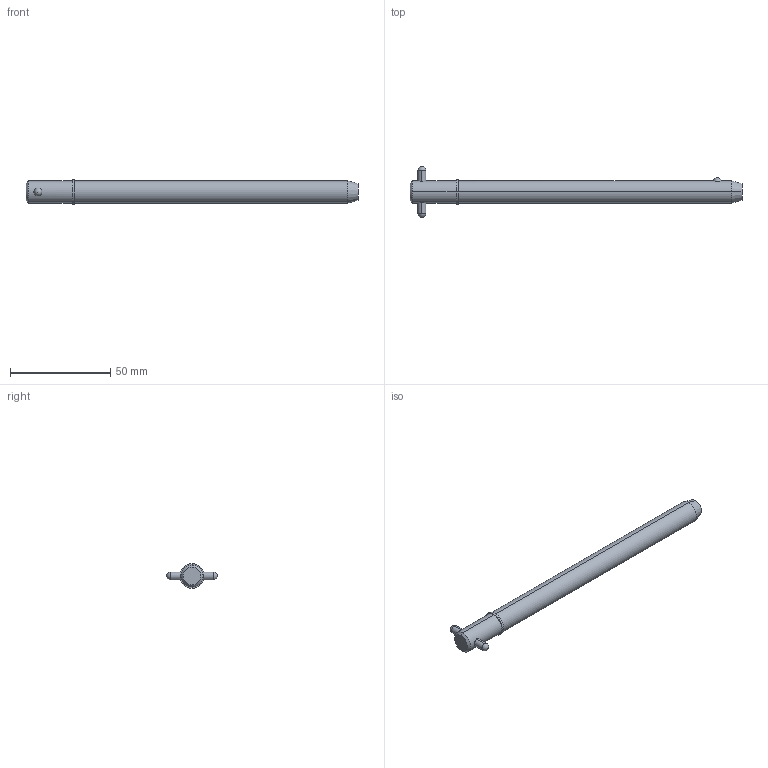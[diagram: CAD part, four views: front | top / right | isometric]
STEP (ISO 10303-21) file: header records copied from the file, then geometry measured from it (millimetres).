
FILE_DESCRIPTION (( 'STEP AP203' ), '1' );
FILE_NAME ('33018.W4350.step', '2024-11-19T17:13:49', ( '' ), ( '' ), 'SwSTEP 2.0', 'SolidWorks 2019', '' );
FILE_SCHEMA (( 'CONFIG_CONTROL_DESIGN' ));
Length unit declared in the file: millimetre
Products named in the file (3): 33018.W4350; Part1_33018.W4350; Part2_33018.W4350
Assembly tree (2 placements, depth 2):
  33018.W4350
    Part1_33018.W4350
    Part2_33018.W4350
Bounding box: 165.4 x 25.4 x 12.22 mm (x, y, z)
Volume: 16095.7 mm3; surface area: 6361.1 mm2
Topology: 2 solids, 2 shells, 22 faces, 47 edges, 30 vertices
Faces by surface type: cylinder 10, sphere 4, cone 4, plane 4
Entity records: 1031 total; most frequent: CARTESIAN_POINT 274, DIRECTION 110, ORIENTED_EDGE 82, AXIS2_PLACEMENT_3D 48, EDGE_CURVE 41, EDGE_LOOP 27, VERTEX_POINT 26, PERSON_AND_ORGANIZATION 26
